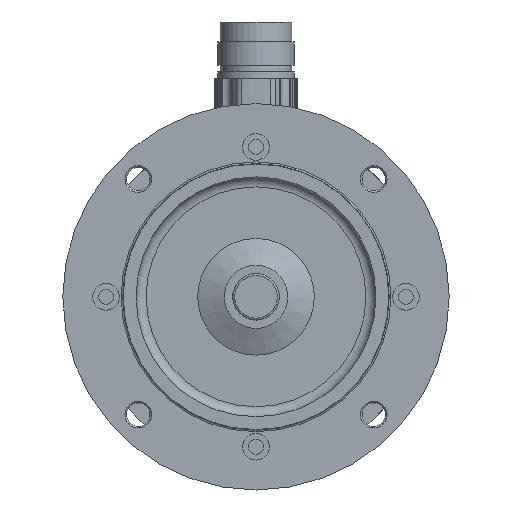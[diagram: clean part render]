
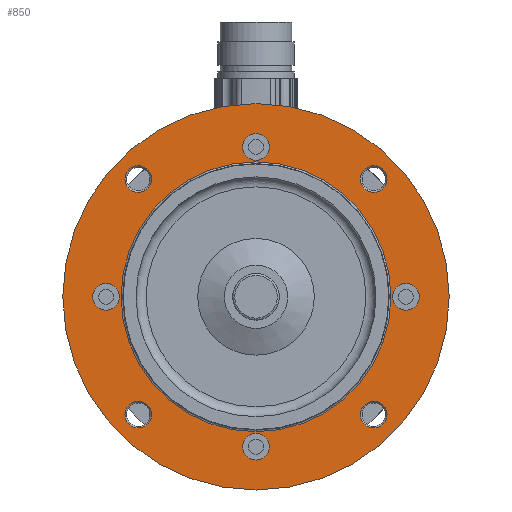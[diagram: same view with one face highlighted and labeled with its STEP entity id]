
A CAD part, front view. The second image highlights one B-rep face of the part: STEP entity #850.
In plain terms, the highlighted planar face has unit normal (0, -1, 0).
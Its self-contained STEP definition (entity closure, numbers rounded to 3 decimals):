
#578=PLANE('',#4338);
#659=FACE_OUTER_BOUND('',#1649,.T.);
#850=ADVANCED_FACE('',(#1308,#1309,#1310,#1311,#1312,#1313,#1314,#1315,#1316,
#659),#578,.T.);
#1308=FACE_BOUND('',#1640,.T.);
#1309=FACE_BOUND('',#1641,.T.);
#1310=FACE_BOUND('',#1642,.T.);
#1311=FACE_BOUND('',#1643,.T.);
#1312=FACE_BOUND('',#1644,.T.);
#1313=FACE_BOUND('',#1645,.T.);
#1314=FACE_BOUND('',#1646,.T.);
#1315=FACE_BOUND('',#1647,.T.);
#1316=FACE_BOUND('',#1648,.T.);
#1640=EDGE_LOOP('',(#2158));
#1641=EDGE_LOOP('',(#2159));
#1642=EDGE_LOOP('',(#2160));
#1643=EDGE_LOOP('',(#2161));
#1644=EDGE_LOOP('',(#2162));
#1645=EDGE_LOOP('',(#2163));
#1646=EDGE_LOOP('',(#2164));
#1647=EDGE_LOOP('',(#2165));
#1648=EDGE_LOOP('',(#2166));
#1649=EDGE_LOOP('',(#2167));
#2158=ORIENTED_EDGE('',*,*,#3489,.T.);
#2159=ORIENTED_EDGE('',*,*,#3490,.T.);
#2160=ORIENTED_EDGE('',*,*,#3491,.T.);
#2161=ORIENTED_EDGE('',*,*,#3492,.T.);
#2162=ORIENTED_EDGE('',*,*,#3493,.T.);
#2163=ORIENTED_EDGE('',*,*,#3494,.T.);
#2164=ORIENTED_EDGE('',*,*,#3495,.T.);
#2165=ORIENTED_EDGE('',*,*,#3496,.T.);
#2166=ORIENTED_EDGE('',*,*,#3497,.T.);
#2167=ORIENTED_EDGE('',*,*,#3498,.F.);
#3103=VERTEX_POINT('',#6445);
#3104=VERTEX_POINT('',#6447);
#3105=VERTEX_POINT('',#6449);
#3106=VERTEX_POINT('',#6451);
#3107=VERTEX_POINT('',#6453);
#3108=VERTEX_POINT('',#6455);
#3109=VERTEX_POINT('',#6457);
#3110=VERTEX_POINT('',#6459);
#3111=VERTEX_POINT('',#6461);
#3112=VERTEX_POINT('',#6463);
#3489=EDGE_CURVE('',#3103,#3103,#3962,.T.);
#3490=EDGE_CURVE('',#3104,#3104,#3963,.T.);
#3491=EDGE_CURVE('',#3105,#3105,#3964,.T.);
#3492=EDGE_CURVE('',#3106,#3106,#3965,.T.);
#3493=EDGE_CURVE('',#3107,#3107,#3966,.T.);
#3494=EDGE_CURVE('',#3108,#3108,#3967,.T.);
#3495=EDGE_CURVE('',#3109,#3109,#3968,.T.);
#3496=EDGE_CURVE('',#3110,#3110,#3969,.T.);
#3497=EDGE_CURVE('',#3111,#3111,#3970,.T.);
#3498=EDGE_CURVE('',#3112,#3112,#3971,.T.);
#3962=CIRCLE('',#4328,40.5);
#3963=CIRCLE('',#4329,4.);
#3964=CIRCLE('',#4330,4.);
#3965=CIRCLE('',#4331,4.);
#3966=CIRCLE('',#4332,4.);
#3967=CIRCLE('',#4333,4.);
#3968=CIRCLE('',#4334,4.);
#3969=CIRCLE('',#4335,4.);
#3970=CIRCLE('',#4336,4.);
#3971=CIRCLE('',#4337,58.);
#4328=AXIS2_PLACEMENT_3D('',#6444,#5007,#5008);
#4329=AXIS2_PLACEMENT_3D('',#6446,#5009,#5010);
#4330=AXIS2_PLACEMENT_3D('',#6448,#5011,#5012);
#4331=AXIS2_PLACEMENT_3D('',#6450,#5013,#5014);
#4332=AXIS2_PLACEMENT_3D('',#6452,#5015,#5016);
#4333=AXIS2_PLACEMENT_3D('',#6454,#5017,#5018);
#4334=AXIS2_PLACEMENT_3D('',#6456,#5019,#5020);
#4335=AXIS2_PLACEMENT_3D('',#6458,#5021,#5022);
#4336=AXIS2_PLACEMENT_3D('',#6460,#5023,#5024);
#4337=AXIS2_PLACEMENT_3D('',#6462,#5025,#5026);
#4338=AXIS2_PLACEMENT_3D('',#6464,#5027,#5028);
#5007=DIRECTION('',(0.,1.,0.));
#5008=DIRECTION('',(0.,0.,-1.));
#5009=DIRECTION('',(0.,1.,0.));
#5010=DIRECTION('',(-1.,0.,0.));
#5011=DIRECTION('',(0.,1.,0.));
#5012=DIRECTION('',(0.,0.,-1.));
#5013=DIRECTION('',(0.,1.,0.));
#5014=DIRECTION('',(1.,0.,0.));
#5015=DIRECTION('',(0.,1.,0.));
#5016=DIRECTION('',(0.,0.,1.));
#5017=DIRECTION('',(0.,1.,0.));
#5018=DIRECTION('',(0.,0.,-1.));
#5019=DIRECTION('',(0.,1.,0.));
#5020=DIRECTION('',(0.,0.,-1.));
#5021=DIRECTION('',(0.,1.,0.));
#5022=DIRECTION('',(0.,0.,-1.));
#5023=DIRECTION('',(0.,1.,0.));
#5024=DIRECTION('',(0.,0.,-1.));
#5025=DIRECTION('',(0.,1.,0.));
#5026=DIRECTION('',(0.,0.,1.));
#5027=DIRECTION('',(0.,-1.,0.));
#5028=DIRECTION('',(0.,0.,-1.));
#6444=CARTESIAN_POINT('',(0.,0.,0.));
#6445=CARTESIAN_POINT('',(0.,0.,-40.5));
#6446=CARTESIAN_POINT('',(-45.,0.,0.));
#6447=CARTESIAN_POINT('',(-49.,0.,0.));
#6448=CARTESIAN_POINT('',(0.,0.,-45.));
#6449=CARTESIAN_POINT('',(0.,0.,-49.));
#6450=CARTESIAN_POINT('',(45.,0.,0.));
#6451=CARTESIAN_POINT('',(49.,0.,0.));
#6452=CARTESIAN_POINT('',(0.,0.,45.));
#6453=CARTESIAN_POINT('',(0.,0.,49.));
#6454=CARTESIAN_POINT('',(35.355,0.,-35.355));
#6455=CARTESIAN_POINT('',(35.355,0.,-39.355));
#6456=CARTESIAN_POINT('',(35.355,0.,35.355));
#6457=CARTESIAN_POINT('',(35.355,0.,31.355));
#6458=CARTESIAN_POINT('',(-35.355,0.,35.355));
#6459=CARTESIAN_POINT('',(-35.355,0.,31.355));
#6460=CARTESIAN_POINT('',(-35.355,0.,-35.355));
#6461=CARTESIAN_POINT('',(-35.355,0.,-39.355));
#6462=CARTESIAN_POINT('',(0.,0.,0.));
#6463=CARTESIAN_POINT('',(0.,0.,58.));
#6464=CARTESIAN_POINT('',(0.,0.,0.));
